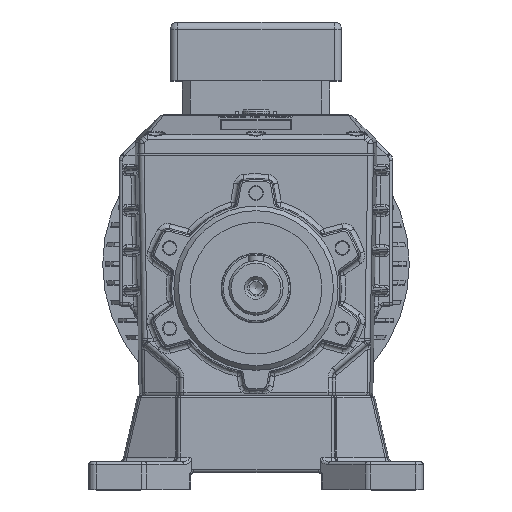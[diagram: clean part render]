
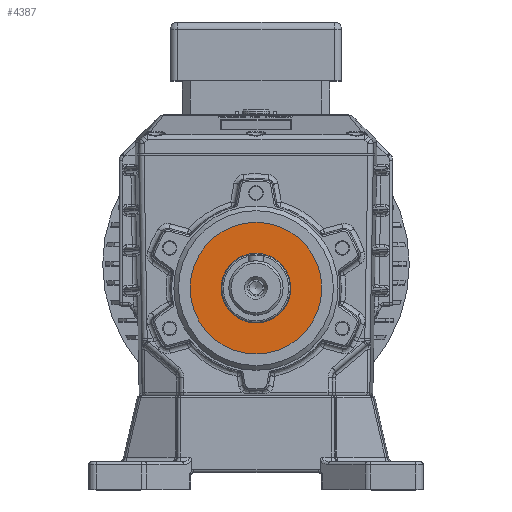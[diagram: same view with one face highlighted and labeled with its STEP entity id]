
A CAD part, top view. The second image highlights one B-rep face of the part: STEP entity #4387.
In plain terms, the highlighted planar face has unit normal (0, 0, 1).
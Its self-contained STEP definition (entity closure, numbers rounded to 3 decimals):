
#4387 = ADVANCED_FACE( '', ( #9446, #9447 ), #9448, .F. );
#9446 = FACE_BOUND( '', #21716, .T. );
#9447 = FACE_OUTER_BOUND( '', #21717, .T. );
#9448 = PLANE( '', #21718 );
#21716 = EDGE_LOOP( '', ( #36319 ) );
#21717 = EDGE_LOOP( '', ( #36320 ) );
#21718 = AXIS2_PLACEMENT_3D( '', #36321, #36322, #36323 );
#36319 = ORIENTED_EDGE( '', *, *, #44996, .T. );
#36320 = ORIENTED_EDGE( '', *, *, #40963, .F. );
#36321 = CARTESIAN_POINT( '', ( 0., 0., 12. ) );
#36322 = DIRECTION( '', ( 0., 0., -1. ) );
#36323 = DIRECTION( '', ( 1., 0., 0. ) );
#40963 = EDGE_CURVE( '', #47634, #47634, #47635, .T. );
#44996 = EDGE_CURVE( '', #53385, #53385, #53386, .T. );
#47634 = VERTEX_POINT( '', #58113 );
#47635 = CIRCLE( '', #58114, 42.5 );
#53385 = VERTEX_POINT( '', #70904 );
#53386 = CIRCLE( '', #70905, 22.5 );
#58113 = CARTESIAN_POINT( '', ( 0., 42.5, 12. ) );
#58114 = AXIS2_PLACEMENT_3D( '', #73509, #73510, #73511 );
#70904 = CARTESIAN_POINT( '', ( 0., 22.5, 12. ) );
#70905 = AXIS2_PLACEMENT_3D( '', #77376, #77377, #77378 );
#73509 = CARTESIAN_POINT( '', ( 0., 0., 12. ) );
#73510 = DIRECTION( '', ( 0., 0., -1. ) );
#73511 = DIRECTION( '', ( 0., 1., 0. ) );
#77376 = CARTESIAN_POINT( '', ( 0., 0., 12. ) );
#77377 = DIRECTION( '', ( 0., 0., -1. ) );
#77378 = DIRECTION( '', ( 0., 1., 0. ) );
